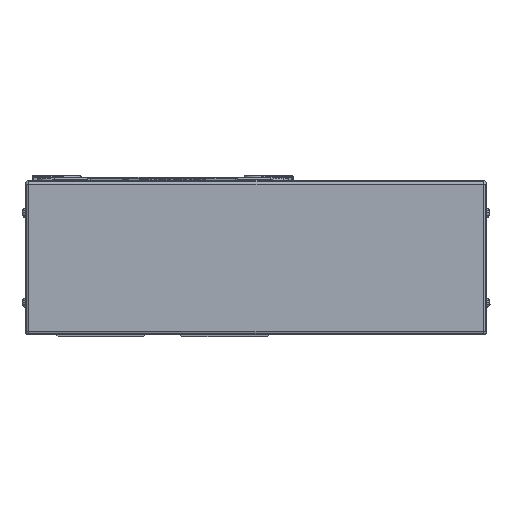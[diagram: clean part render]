
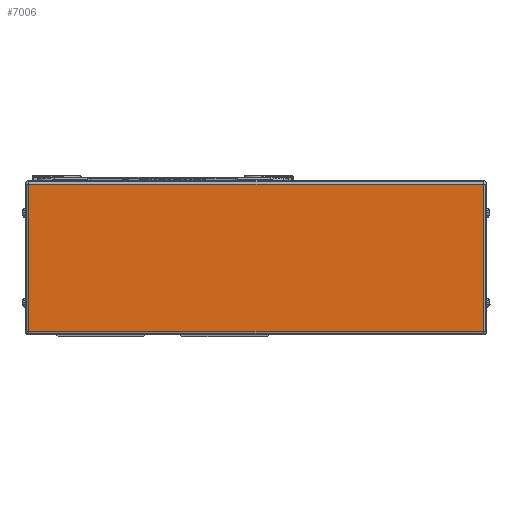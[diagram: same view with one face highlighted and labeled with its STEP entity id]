
A CAD part, left-side view. The second image highlights one B-rep face of the part: STEP entity #7006.
In plain terms, the highlighted planar face has unit normal (-1, 0, 0).
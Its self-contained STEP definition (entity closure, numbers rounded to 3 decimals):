
#7006=ADVANCED_FACE('',(#14153),#14154,.T.);
#14153=FACE_OUTER_BOUND('',#22801,.T.);
#14154=PLANE('',#22802);
#22801=EDGE_LOOP('',(#42602,#42603,#42604,#42605));
#22802=AXIS2_PLACEMENT_3D('',#42606,#42607,#42608);
#42602=ORIENTED_EDGE('',*,*,#49032,.F.);
#42603=ORIENTED_EDGE('',*,*,#45055,.F.);
#42604=ORIENTED_EDGE('',*,*,#46006,.F.);
#42605=ORIENTED_EDGE('',*,*,#49223,.F.);
#42606=CARTESIAN_POINT('',(-45.,-180.5,0.));
#42607=DIRECTION('',(-1.0,0.,0.));
#42608=DIRECTION('',(0.,0.,1.0));
#45055=EDGE_CURVE('',#54041,#54043,#54044,.T.);
#46006=EDGE_CURVE('',#55530,#54041,#55532,.T.);
#49032=EDGE_CURVE('',#54043,#60072,#60073,.T.);
#49223=EDGE_CURVE('',#60072,#55530,#60323,.T.);
#54041=VERTEX_POINT('',#66676);
#54043=VERTEX_POINT('',#66678);
#54044=LINE('',#66679,#66680);
#55530=VERTEX_POINT('',#68874);
#55532=LINE('',#68876,#68877);
#60072=VERTEX_POINT('',#75803);
#60073=LINE('',#75804,#75805);
#60323=LINE('',#76172,#76173);
#66676=CARTESIAN_POINT('',(-45.,74.5,41.));
#66678=CARTESIAN_POINT('',(-45.,-178.5,41.));
#66679=CARTESIAN_POINT('',(-45.,-180.5,41.));
#66680=VECTOR('',#82150,10.0);
#68874=CARTESIAN_POINT('',(-45.,74.5,-41.));
#68876=CARTESIAN_POINT('',(-45.,74.5,0.));
#68877=VECTOR('',#83382,10.0);
#75803=CARTESIAN_POINT('',(-45.,-178.5,-41.));
#75804=CARTESIAN_POINT('',(-45.,-178.5,0.));
#75805=VECTOR('',#87341,10.0);
#76172=CARTESIAN_POINT('',(-45.,-180.5,-41.));
#76173=VECTOR('',#87558,10.0);
#82150=DIRECTION('',(0.,-1.0,0.));
#83382=DIRECTION('',(0.,0.,1.0));
#87341=DIRECTION('',(0.,0.,-1.0));
#87558=DIRECTION('',(0.,1.0,0.));
